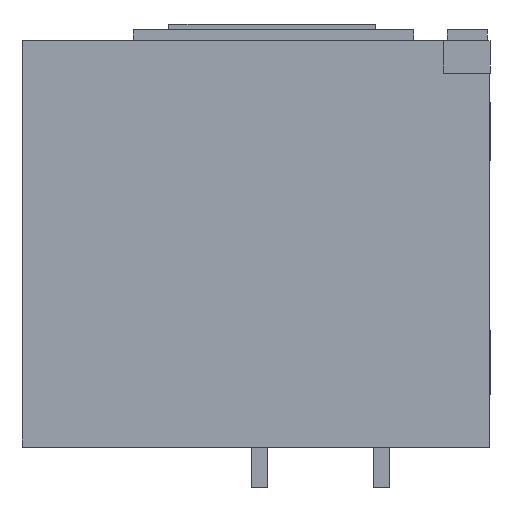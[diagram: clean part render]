
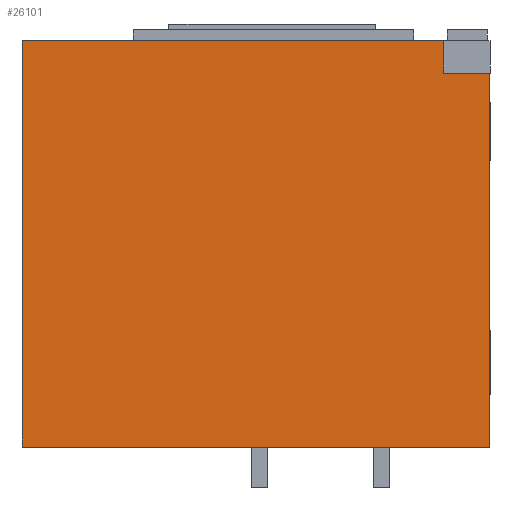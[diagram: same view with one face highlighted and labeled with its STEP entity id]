
A CAD part, left-side view. The second image highlights one B-rep face of the part: STEP entity #26101.
In plain terms, the highlighted planar face has unit normal (-1, 0, 0).
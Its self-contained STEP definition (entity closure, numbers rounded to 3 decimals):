
#991 = ORIENTED_EDGE ( 'NONE', *, *, #4080, .F. ) ;
#1418 = EDGE_LOOP ( 'NONE', ( #34252, #991, #33503, #7402, #27596, #14051 ) ) ;
#1785 = VECTOR ( 'NONE', #28802, 1000. ) ;
#3377 = DIRECTION ( 'NONE',  ( 0., -1., 0. ) ) ;
#3766 = VERTEX_POINT ( 'NONE', #20857 ) ;
#3904 = VERTEX_POINT ( 'NONE', #24134 ) ;
#4080 = EDGE_CURVE ( 'NONE', #19171, #28311, #15958, .T. ) ;
#4140 = LINE ( 'NONE', #11174, #33066 ) ;
#4556 = LINE ( 'NONE', #8742, #33424 ) ;
#4738 = EDGE_CURVE ( 'NONE', #28311, #3904, #34159, .T. ) ;
#5232 = FACE_OUTER_BOUND ( 'NONE', #1418, .T. ) ;
#5326 = VECTOR ( 'NONE', #23205, 1000. ) ;
#6008 = DIRECTION ( 'NONE',  ( 0., -1., 0. ) ) ;
#6595 = CARTESIAN_POINT ( 'NONE',  ( -262.5, 0., -373.5 ) ) ;
#6815 = CARTESIAN_POINT ( 'NONE',  ( -262.5, 0., -373.5 ) ) ;
#7402 = ORIENTED_EDGE ( 'NONE', *, *, #34886, .T. ) ;
#8020 = VECTOR ( 'NONE', #20993, 1000. ) ;
#8742 = CARTESIAN_POINT ( 'NONE',  ( -262.5, 0., -373.5 ) ) ;
#9231 = CARTESIAN_POINT ( 'NONE',  ( -262.5, 430., -373.5 ) ) ;
#9433 = DIRECTION ( 'NONE',  ( 0., -1., 0. ) ) ;
#11174 = CARTESIAN_POINT ( 'NONE',  ( -262.5, 42.5, -373.5 ) ) ;
#13976 = EDGE_CURVE ( 'NONE', #3766, #35700, #26797, .T. ) ;
#14051 = ORIENTED_EDGE ( 'NONE', *, *, #19945, .T. ) ;
#15958 = LINE ( 'NONE', #9231, #1785 ) ;
#16072 = CARTESIAN_POINT ( 'NONE',  ( -262.5, 430., 0. ) ) ;
#19171 = VERTEX_POINT ( 'NONE', #34049 ) ;
#19945 = EDGE_CURVE ( 'NONE', #3766, #3904, #4140, .T. ) ;
#20663 = PLANE ( 'NONE',  #35361 ) ;
#20857 = CARTESIAN_POINT ( 'NONE',  ( -262.5, 42.5, -30. ) ) ;
#20993 = DIRECTION ( 'NONE',  ( 0., 0., 1. ) ) ;
#21119 = EDGE_CURVE ( 'NONE', #19171, #21430, #4556, .T. ) ;
#21430 = VERTEX_POINT ( 'NONE', #34022 ) ;
#23205 = DIRECTION ( 'NONE',  ( 0., -1., 0. ) ) ;
#23566 = CARTESIAN_POINT ( 'NONE',  ( -262.5, 430.001, -30. ) ) ;
#23831 = LINE ( 'NONE', #6815, #8020 ) ;
#24134 = CARTESIAN_POINT ( 'NONE',  ( -262.5, 42.5, 0. ) ) ;
#25260 = DIRECTION ( 'NONE',  ( 0., 0., 1. ) ) ;
#25626 = CARTESIAN_POINT ( 'NONE',  ( -262.5, 0., 0. ) ) ;
#26101 = ADVANCED_FACE ( 'NONE', ( #5232 ), #20663, .T. ) ;
#26199 = DIRECTION ( 'NONE',  ( -1., 0., 0. ) ) ;
#26797 = LINE ( 'NONE', #23566, #5326 ) ;
#26828 = VECTOR ( 'NONE', #6008, 1000. ) ;
#27596 = ORIENTED_EDGE ( 'NONE', *, *, #13976, .F. ) ;
#28311 = VERTEX_POINT ( 'NONE', #16072 ) ;
#28802 = DIRECTION ( 'NONE',  ( 0., 0., 1. ) ) ;
#29263 = CARTESIAN_POINT ( 'NONE',  ( -262.5, 0., -30. ) ) ;
#33066 = VECTOR ( 'NONE', #25260, 1000. ) ;
#33424 = VECTOR ( 'NONE', #3377, 1000. ) ;
#33503 = ORIENTED_EDGE ( 'NONE', *, *, #21119, .T. ) ;
#34022 = CARTESIAN_POINT ( 'NONE',  ( -262.5, 0., -373.5 ) ) ;
#34049 = CARTESIAN_POINT ( 'NONE',  ( -262.5, 430., -373.5 ) ) ;
#34159 = LINE ( 'NONE', #25626, #26828 ) ;
#34252 = ORIENTED_EDGE ( 'NONE', *, *, #4738, .F. ) ;
#34886 = EDGE_CURVE ( 'NONE', #21430, #35700, #23831, .T. ) ;
#35361 = AXIS2_PLACEMENT_3D ( 'NONE', #6595, #26199, #9433 ) ;
#35700 = VERTEX_POINT ( 'NONE', #29263 ) ;
